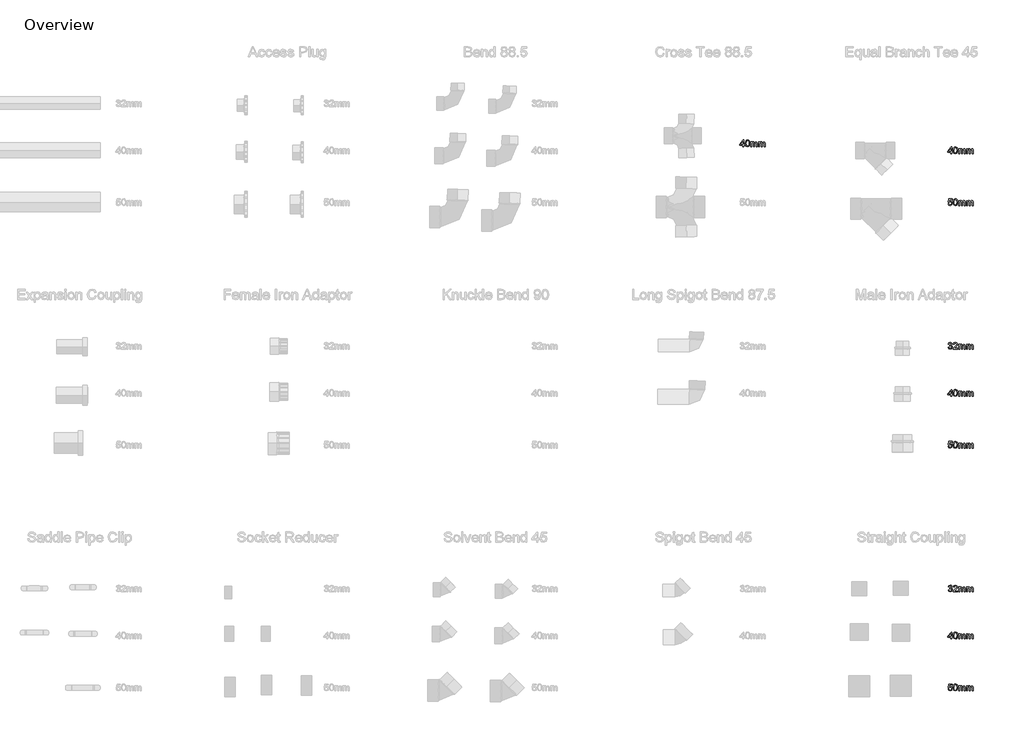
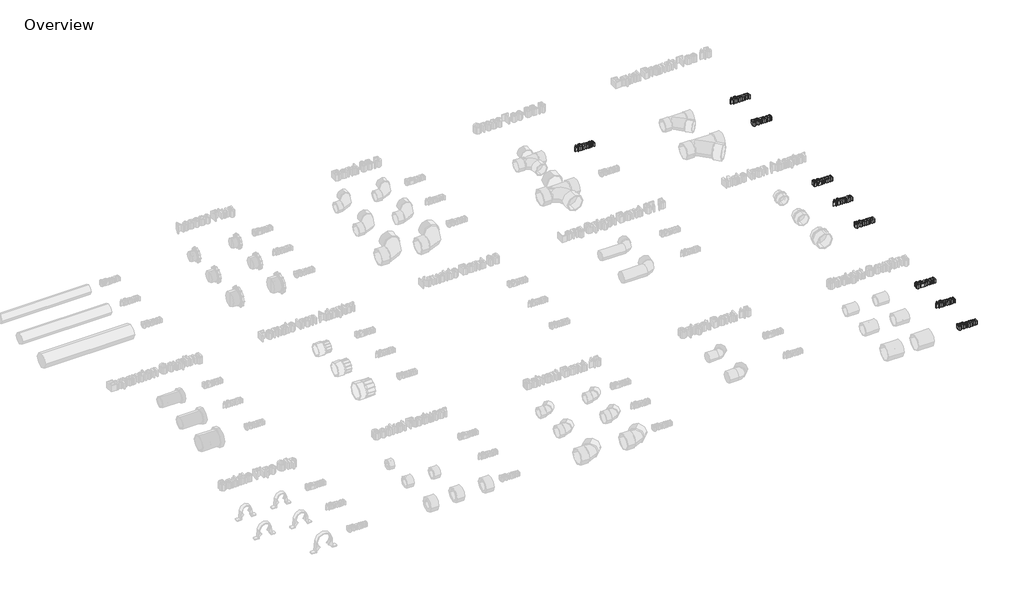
# One storey, part 10 of 10: 9 proxies.
"""IFC4 building model written with IfcOpenShell, lengths in millimetres."""

from ifc_helpers import new_model, si_unit, origin, origin_with_axes, place, context, project, spatial, polyline, outline, extrude, element, save

model = new_model("IFC4")

# Units and contexts
model_context = context("Model", 3, world=origin())
ifc_project = project(units=[si_unit("LENGTHUNIT", "METRE", prefix="MILLI")], contexts=[model_context])

# Site, building, storey
site = spatial("IfcSite", under=ifc_project)
building = spatial("IfcBuilding", under=site)
storey = spatial("IfcBuildingStorey", under=building, Name="Overview", Elevation=0.0)

# Proxies
placement = place(None, origin())
element("IfcBuildingElementProxy", 1, Name="20mm Arial", ObjectType="20mm Arial", at=placement, inside=storey, context=model_context, shape_type="SweptSolid", body=[
    extrude(outline(polyline([(101.7650883, 4421.4652453), (104.2266268, 4421.7729376), (105.5847999, 4419.1815914), (108.1256653, 4418.3883222), (111.1160499, 4419.4796684), (112.2266268, 4422.1815914), (111.1256653, 4424.7272645), (108.3275883, 4425.7344761), (106.6016268, 4425.4652453), (106.8756653, 4427.9267837), (110.0631653, 4428.6046684), (111.3035499, 4430.7777453), (110.4045114, 4432.7032261), (108.0872037, 4433.4652453), (105.7410499, 4432.6960145), (104.5343191, 4430.3883222), (102.0727806, 4430.6960145), (104.0872037, 4434.5565914), (108.0006653, 4435.9267837), (110.9694153, 4435.251303), (113.0463383, 4433.4051491), (113.7650883, 4430.9219761), (113.082396, 4428.6527453), (111.0631653, 4427.0229376), (113.7458576, 4425.3402453), (114.6881653, 4422.1383222), (112.8035499, 4417.7344761), (108.0391268, 4415.9267837), (103.7218191, 4417.470053), (101.7650883, 4421.4652453)])), origin_with_axes(), (0.0, 0.0, 1.0), 15.0),
    extrude(outline(polyline([(129.457396, 4418.6960145), (129.457396, 4416.2344761), (116.5343191, 4416.2344761), (116.7987422, 4417.9315914), (118.2939345, 4420.5445722), (121.3756653, 4423.3979376), (125.6256653, 4427.4988991), (126.6881653, 4430.2873607), (125.6857614, 4432.5445722), (123.0679729, 4433.4652453), (120.3396076, 4432.5662068), (119.3035499, 4430.0806299), (116.8420114, 4430.3883222), (118.7290306, 4434.5085145), (123.1208576, 4435.9267837), (127.5271076, 4434.3498607), (129.1497037, 4430.4363991), (128.7122037, 4428.1022645), (127.2578768, 4425.688803), (123.7314345, 4422.3162068), (120.8997037, 4419.9484184), (119.7891268, 4418.6960145), (129.457396, 4418.6960145)])), origin_with_axes(), (0.0, 0.0, 1.0), 15.0),
    extrude(outline(polyline([(132.5343191, 4416.2344761), (132.5343191, 4430.6960145), (134.9958576, 4430.6960145), (134.9958576, 4428.3162068), (136.6881653, 4430.2657261), (139.0968191, 4431.0037068), (141.5631653, 4430.251303), (142.9189345, 4428.1431299), (147.2650883, 4431.0037068), (150.4838383, 4429.813803), (151.6112422, 4426.1479376), (151.6112422, 4416.2344761), (149.1497037, 4416.2344761), (149.1497037, 4425.0902453), (148.9213383, 4427.1455337), (144.2674922, 4427.5565914), (143.3035499, 4424.3979376), (143.3035499, 4416.2344761), (140.8420114, 4416.2344761), (140.8420114, 4425.3642837), (140.2722999, 4427.7488991), (138.4045114, 4428.5421684), (136.582396, 4428.0133222), (135.3708576, 4426.4652453), (134.9958576, 4423.5277453), (134.9958576, 4416.2344761), (132.5343191, 4416.2344761)])), origin_with_axes(), (0.0, 0.0, 1.0), 15.0),
    extrude(outline(polyline([(155.3035499, 4416.2344761), (155.3035499, 4430.6960145), (157.7650883, 4430.6960145), (157.7650883, 4428.3162068), (159.457396, 4430.2657261), (161.8660499, 4431.0037068), (164.332396, 4430.251303), (165.6881653, 4428.1431299), (170.0343191, 4431.0037068), (173.2530691, 4429.813803), (174.3804729, 4426.1479376), (174.3804729, 4416.2344761), (171.9189345, 4416.2344761), (171.9189345, 4425.0902453), (171.6905691, 4427.1455337), (167.0367229, 4427.5565914), (166.0727806, 4424.3979376), (166.0727806, 4416.2344761), (163.6112422, 4416.2344761), (163.6112422, 4425.3642837), (163.0415306, 4427.7488991), (161.1737422, 4428.5421684), (159.3516268, 4428.0133222), (158.1400883, 4426.4652453), (157.7650883, 4423.5277453), (157.7650883, 4416.2344761), (155.3035499, 4416.2344761)])), origin_with_axes(), (0.0, 0.0, 1.0), 15.0),
])
element("IfcBuildingElementProxy", 2, Name="20mm Arial", ObjectType="20mm Arial", at=placement, inside=storey, context=model_context, shape_type="SweptSolid", body=[
    extrude(outline(polyline([(109.7650883, 4280.5685355), (109.7650883, 4285.1839201), (100.8420114, 4285.1839201), (100.8420114, 4287.6454586), (110.3804729, 4299.9531509), (112.2266268, 4299.9531509), (112.2266268, 4287.6454586), (114.6881653, 4287.6454586), (114.6881653, 4285.1839201), (112.2266268, 4285.1839201), (112.2266268, 4280.5685355), (109.7650883, 4280.5685355)]), holes=[polyline([(109.7650883, 4287.6454586), (109.7650883, 4295.2512278), (103.8708576, 4287.6454586), (109.7650883, 4287.6454586)])]), origin_with_axes(), (0.0, 0.0, 1.0), 15.0),
    extrude(outline(polyline([(116.8420114, 4290.2560355), (117.5655691, 4295.9219009), (119.7146076, 4299.1887278), (123.3035499, 4300.2608432), (126.1785499, 4299.6262278), (128.1641268, 4297.7969009), (129.3179729, 4294.8834393), (129.7650883, 4290.2560355), (129.0487422, 4284.6142086), (126.9069153, 4281.3401701), (123.3035499, 4280.2608432), (118.8035499, 4282.1358432), (116.8420114, 4290.2560355)]), holes=[polyline([(119.3035499, 4290.2608432), (120.457396, 4284.1478624), (123.3035499, 4282.7223816), (126.1497037, 4284.1526701), (127.3035499, 4290.2608432), (126.1881653, 4296.3041124), (123.2747037, 4297.7993047), (120.4958576, 4296.481997), (119.3035499, 4290.2608432)])]), origin_with_axes(), (0.0, 0.0, 1.0), 15.0),
    extrude(outline(polyline([(132.5343191, 4280.5685355), (132.5343191, 4295.030074), (134.9958576, 4295.030074), (134.9958576, 4292.6502663), (136.6881653, 4294.5997855), (139.0968191, 4295.3377663), (141.5631653, 4294.5853624), (142.9189345, 4292.4771893), (147.2650883, 4295.3377663), (150.4838383, 4294.1478624), (151.6112422, 4290.481997), (151.6112422, 4280.5685355), (149.1497037, 4280.5685355), (149.1497037, 4289.4243047), (148.9213383, 4291.4795932), (144.2674922, 4291.8906509), (143.3035499, 4288.731997), (143.3035499, 4280.5685355), (140.8420114, 4280.5685355), (140.8420114, 4289.6983432), (140.2722999, 4292.0829586), (138.4045114, 4292.8762278), (136.582396, 4292.3473816), (135.3708576, 4290.7993047), (134.9958576, 4287.8618047), (134.9958576, 4280.5685355), (132.5343191, 4280.5685355)])), origin_with_axes(), (0.0, 0.0, 1.0), 15.0),
    extrude(outline(polyline([(155.3035499, 4280.5685355), (155.3035499, 4295.030074), (157.7650883, 4295.030074), (157.7650883, 4292.6502663), (159.457396, 4294.5997855), (161.8660499, 4295.3377663), (164.332396, 4294.5853624), (165.6881653, 4292.4771893), (170.0343191, 4295.3377663), (173.2530691, 4294.1478624), (174.3804729, 4290.481997), (174.3804729, 4280.5685355), (171.9189345, 4280.5685355), (171.9189345, 4289.4243047), (171.6905691, 4291.4795932), (167.0367229, 4291.8906509), (166.0727806, 4288.731997), (166.0727806, 4280.5685355), (163.6112422, 4280.5685355), (163.6112422, 4289.6983432), (163.0415306, 4292.0829586), (161.1737422, 4292.8762278), (159.3516268, 4292.3473816), (158.1400883, 4290.7993047), (157.7650883, 4287.8618047), (157.7650883, 4280.5685355), (155.3035499, 4280.5685355)])), origin_with_axes(), (0.0, 0.0, 1.0), 15.0),
])
element("IfcBuildingElementProxy", 3, Name="20mm Arial", ObjectType="20mm Arial", at=placement, inside=storey, context=model_context, shape_type="SweptSolid", body=[
    extrude(outline(polyline([(101.7650883, 4136.1445961), (104.2266268, 4136.4522884), (105.4670114, 4133.9162307), (108.0391268, 4133.067673), (111.1256653, 4134.2479615), (112.2266268, 4137.380173), (111.1953768, 4140.3032499), (108.0775883, 4141.3753653), (105.9165306, 4140.9474807), (104.5343191, 4139.8369038), (102.0727806, 4140.1445961), (104.2266268, 4150.2984422), (113.7650883, 4150.2984422), (113.7650883, 4147.8369038), (106.2170114, 4147.8369038), (105.1641268, 4142.4138269), (108.7650883, 4143.8369038), (112.9742229, 4142.0724807), (114.6881653, 4137.5340192), (113.144896, 4132.9667115), (108.0295114, 4130.6061346), (103.6857614, 4132.1229615), (101.7650883, 4136.1445961)])), origin_with_axes(), (0.0, 0.0, 1.0), 15.0),
    extrude(outline(polyline([(116.8420114, 4140.6013269), (117.5655691, 4146.2671922), (119.7146076, 4149.5340192), (123.3035499, 4150.6061346), (126.1785499, 4149.9715192), (128.1641268, 4148.1421922), (129.3179729, 4145.2287307), (129.7650883, 4140.6013269), (129.0487422, 4134.9594999), (126.9069153, 4131.6854615), (123.3035499, 4130.6061346), (118.8035499, 4132.4811346), (116.8420114, 4140.6013269)]), holes=[polyline([(119.3035499, 4140.6061346), (120.457396, 4134.4931538), (123.3035499, 4133.067673), (126.1497037, 4134.4979615), (127.3035499, 4140.6061346), (126.1881653, 4146.6494038), (123.2747037, 4148.1445961), (120.4958576, 4146.8272884), (119.3035499, 4140.6061346)])]), origin_with_axes(), (0.0, 0.0, 1.0), 15.0),
    extrude(outline(polyline([(132.5343191, 4130.9138269), (132.5343191, 4145.3753653), (134.9958576, 4145.3753653), (134.9958576, 4142.9955576), (136.6881653, 4144.9450769), (139.0968191, 4145.6830576), (141.5631653, 4144.9306538), (142.9189345, 4142.8224807), (147.2650883, 4145.6830576), (150.4838383, 4144.4931538), (151.6112422, 4140.8272884), (151.6112422, 4130.9138269), (149.1497037, 4130.9138269), (149.1497037, 4139.7695961), (148.9213383, 4141.8248846), (144.2674922, 4142.2359422), (143.3035499, 4139.0772884), (143.3035499, 4130.9138269), (140.8420114, 4130.9138269), (140.8420114, 4140.0436346), (140.2722999, 4142.4282499), (138.4045114, 4143.2215192), (136.582396, 4142.692673), (135.3708576, 4141.1445961), (134.9958576, 4138.2070961), (134.9958576, 4130.9138269), (132.5343191, 4130.9138269)])), origin_with_axes(), (0.0, 0.0, 1.0), 15.0),
    extrude(outline(polyline([(155.3035499, 4130.9138269), (155.3035499, 4145.3753653), (157.7650883, 4145.3753653), (157.7650883, 4142.9955576), (159.457396, 4144.9450769), (161.8660499, 4145.6830576), (164.332396, 4144.9306538), (165.6881653, 4142.8224807), (170.0343191, 4145.6830576), (173.2530691, 4144.4931538), (174.3804729, 4140.8272884), (174.3804729, 4130.9138269), (171.9189345, 4130.9138269), (171.9189345, 4139.7695961), (171.6905691, 4141.8248846), (167.0367229, 4142.2359422), (166.0727806, 4139.0772884), (166.0727806, 4130.9138269), (163.6112422, 4130.9138269), (163.6112422, 4140.0436346), (163.0415306, 4142.4282499), (161.1737422, 4143.2215192), (159.3516268, 4142.692673), (158.1400883, 4141.1445961), (157.7650883, 4138.2070961), (157.7650883, 4130.9138269), (155.3035499, 4130.9138269)])), origin_with_axes(), (0.0, 0.0, 1.0), 15.0),
])
element("IfcBuildingElementProxy", 4, Name="20mm Arial", ObjectType="20mm Arial", at=placement, inside=storey, context=model_context, shape_type="SweptSolid", body=[
    extrude(outline(polyline([(-490.2349117, 5000.5685355), (-490.2349117, 5005.1839201), (-499.1579886, 5005.1839201), (-499.1579886, 5007.6454586), (-489.6195271, 5019.9531509), (-487.7733732, 5019.9531509), (-487.7733732, 5007.6454586), (-485.3118347, 5007.6454586), (-485.3118347, 5005.1839201), (-487.7733732, 5005.1839201), (-487.7733732, 5000.5685355), (-490.2349117, 5000.5685355)]), holes=[polyline([(-490.2349117, 5007.6454586), (-490.2349117, 5015.2512278), (-496.1291424, 5007.6454586), (-490.2349117, 5007.6454586)])]), origin_with_axes(), (0.0, 0.0, 1.0), 15.0),
    extrude(outline(polyline([(-483.1579886, 5010.2560355), (-482.4344309, 5015.9219009), (-480.2853924, 5019.1887278), (-476.6964501, 5020.2608432), (-473.8214501, 5019.6262278), (-471.8358732, 5017.7969009), (-470.6820271, 5014.8834393), (-470.2349117, 5010.2560355), (-470.9512578, 5004.6142086), (-473.0930847, 5001.3401701), (-476.6964501, 5000.2608432), (-481.1964501, 5002.1358432), (-483.1579886, 5010.2560355)]), holes=[polyline([(-480.6964501, 5010.2608432), (-479.542604, 5004.1478624), (-476.6964501, 5002.7223816), (-473.8502963, 5004.1526701), (-472.6964501, 5010.2608432), (-473.8118347, 5016.3041124), (-476.7252963, 5017.7993047), (-479.5041424, 5016.481997), (-480.6964501, 5010.2608432)])]), origin_with_axes(), (0.0, 0.0, 1.0), 15.0),
    extrude(outline(polyline([(-467.4656809, 5000.5685355), (-467.4656809, 5015.030074), (-465.0041424, 5015.030074), (-465.0041424, 5012.6502663), (-463.3118347, 5014.5997855), (-460.9031809, 5015.3377663), (-458.4368347, 5014.5853624), (-457.0810655, 5012.4771893), (-452.7349117, 5015.3377663), (-449.5161617, 5014.1478624), (-448.3887578, 5010.481997), (-448.3887578, 5000.5685355), (-450.8502963, 5000.5685355), (-450.8502963, 5009.4243047), (-451.0786617, 5011.4795932), (-455.7325078, 5011.8906509), (-456.6964501, 5008.731997), (-456.6964501, 5000.5685355), (-459.1579886, 5000.5685355), (-459.1579886, 5009.6983432), (-459.7277001, 5012.0829586), (-461.5954886, 5012.8762278), (-463.417604, 5012.3473816), (-464.6291424, 5010.7993047), (-465.0041424, 5007.8618047), (-465.0041424, 5000.5685355), (-467.4656809, 5000.5685355)])), origin_with_axes(), (0.0, 0.0, 1.0), 15.0),
    extrude(outline(polyline([(-444.6964501, 5000.5685355), (-444.6964501, 5015.030074), (-442.2349117, 5015.030074), (-442.2349117, 5012.6502663), (-440.542604, 5014.5997855), (-438.1339501, 5015.3377663), (-435.667604, 5014.5853624), (-434.3118347, 5012.4771893), (-429.9656809, 5015.3377663), (-426.7469309, 5014.1478624), (-425.6195271, 5010.481997), (-425.6195271, 5000.5685355), (-428.0810655, 5000.5685355), (-428.0810655, 5009.4243047), (-428.3094309, 5011.4795932), (-432.9632771, 5011.8906509), (-433.9272194, 5008.731997), (-433.9272194, 5000.5685355), (-436.3887578, 5000.5685355), (-436.3887578, 5009.6983432), (-436.9584694, 5012.0829586), (-438.8262578, 5012.8762278), (-440.6483732, 5012.3473816), (-441.8599117, 5010.7993047), (-442.2349117, 5007.8618047), (-442.2349117, 5000.5685355), (-444.6964501, 5000.5685355)])), origin_with_axes(), (0.0, 0.0, 1.0), 15.0),
])
element("IfcBuildingElementProxy", 5, Name="20mm Arial", ObjectType="20mm Arial", at=placement, inside=storey, context=model_context, shape_type="SweptSolid", body=[
    extrude(outline(polyline([(109.7650883, 4980.5685355), (109.7650883, 4985.1839201), (100.8420114, 4985.1839201), (100.8420114, 4987.6454586), (110.3804729, 4999.9531509), (112.2266268, 4999.9531509), (112.2266268, 4987.6454586), (114.6881653, 4987.6454586), (114.6881653, 4985.1839201), (112.2266268, 4985.1839201), (112.2266268, 4980.5685355), (109.7650883, 4980.5685355)]), holes=[polyline([(109.7650883, 4987.6454586), (109.7650883, 4995.2512278), (103.8708576, 4987.6454586), (109.7650883, 4987.6454586)])]), origin_with_axes(), (0.0, 0.0, 1.0), 15.0),
    extrude(outline(polyline([(116.8420114, 4990.2560355), (117.5655691, 4995.9219009), (119.7146076, 4999.1887278), (123.3035499, 5000.2608432), (126.1785499, 4999.6262278), (128.1641268, 4997.7969009), (129.3179729, 4994.8834393), (129.7650883, 4990.2560355), (129.0487422, 4984.6142086), (126.9069153, 4981.3401701), (123.3035499, 4980.2608432), (118.8035499, 4982.1358432), (116.8420114, 4990.2560355)]), holes=[polyline([(119.3035499, 4990.2608432), (120.457396, 4984.1478624), (123.3035499, 4982.7223816), (126.1497037, 4984.1526701), (127.3035499, 4990.2608432), (126.1881653, 4996.3041124), (123.2747037, 4997.7993047), (120.4958576, 4996.481997), (119.3035499, 4990.2608432)])]), origin_with_axes(), (0.0, 0.0, 1.0), 15.0),
    extrude(outline(polyline([(132.5343191, 4980.5685355), (132.5343191, 4995.030074), (134.9958576, 4995.030074), (134.9958576, 4992.6502663), (136.6881653, 4994.5997855), (139.0968191, 4995.3377663), (141.5631653, 4994.5853624), (142.9189345, 4992.4771893), (147.2650883, 4995.3377663), (150.4838383, 4994.1478624), (151.6112422, 4990.481997), (151.6112422, 4980.5685355), (149.1497037, 4980.5685355), (149.1497037, 4989.4243047), (148.9213383, 4991.4795932), (144.2674922, 4991.8906509), (143.3035499, 4988.731997), (143.3035499, 4980.5685355), (140.8420114, 4980.5685355), (140.8420114, 4989.6983432), (140.2722999, 4992.0829586), (138.4045114, 4992.8762278), (136.582396, 4992.3473816), (135.3708576, 4990.7993047), (134.9958576, 4987.8618047), (134.9958576, 4980.5685355), (132.5343191, 4980.5685355)])), origin_with_axes(), (0.0, 0.0, 1.0), 15.0),
    extrude(outline(polyline([(155.3035499, 4980.5685355), (155.3035499, 4995.030074), (157.7650883, 4995.030074), (157.7650883, 4992.6502663), (159.457396, 4994.5997855), (161.8660499, 4995.3377663), (164.332396, 4994.5853624), (165.6881653, 4992.4771893), (170.0343191, 4995.3377663), (173.2530691, 4994.1478624), (174.3804729, 4990.481997), (174.3804729, 4980.5685355), (171.9189345, 4980.5685355), (171.9189345, 4989.4243047), (171.6905691, 4991.4795932), (167.0367229, 4991.8906509), (166.0727806, 4988.731997), (166.0727806, 4980.5685355), (163.6112422, 4980.5685355), (163.6112422, 4989.6983432), (163.0415306, 4992.0829586), (161.1737422, 4992.8762278), (159.3516268, 4992.3473816), (158.1400883, 4990.7993047), (157.7650883, 4987.8618047), (157.7650883, 4980.5685355), (155.3035499, 4980.5685355)])), origin_with_axes(), (0.0, 0.0, 1.0), 15.0),
])
element("IfcBuildingElementProxy", 6, Name="20mm Arial", ObjectType="20mm Arial", at=placement, inside=storey, context=model_context, shape_type="SweptSolid", body=[
    extrude(outline(polyline([(101.7650883, 4836.1445961), (104.2266268, 4836.4522884), (105.4670114, 4833.9162307), (108.0391268, 4833.067673), (111.1256653, 4834.2479615), (112.2266268, 4837.380173), (111.1953768, 4840.3032499), (108.0775883, 4841.3753653), (105.9165306, 4840.9474807), (104.5343191, 4839.8369038), (102.0727806, 4840.1445961), (104.2266268, 4850.2984422), (113.7650883, 4850.2984422), (113.7650883, 4847.8369038), (106.2170114, 4847.8369038), (105.1641268, 4842.4138269), (108.7650883, 4843.8369038), (112.9742229, 4842.0724807), (114.6881653, 4837.5340192), (113.144896, 4832.9667115), (108.0295114, 4830.6061346), (103.6857614, 4832.1229615), (101.7650883, 4836.1445961)])), origin_with_axes(), (0.0, 0.0, 1.0), 15.0),
    extrude(outline(polyline([(116.8420114, 4840.6013269), (117.5655691, 4846.2671922), (119.7146076, 4849.5340192), (123.3035499, 4850.6061346), (126.1785499, 4849.9715192), (128.1641268, 4848.1421922), (129.3179729, 4845.2287307), (129.7650883, 4840.6013269), (129.0487422, 4834.9594999), (126.9069153, 4831.6854615), (123.3035499, 4830.6061346), (118.8035499, 4832.4811346), (116.8420114, 4840.6013269)]), holes=[polyline([(119.3035499, 4840.6061346), (120.457396, 4834.4931538), (123.3035499, 4833.067673), (126.1497037, 4834.4979615), (127.3035499, 4840.6061346), (126.1881653, 4846.6494038), (123.2747037, 4848.1445961), (120.4958576, 4846.8272884), (119.3035499, 4840.6061346)])]), origin_with_axes(), (0.0, 0.0, 1.0), 15.0),
    extrude(outline(polyline([(132.5343191, 4830.9138269), (132.5343191, 4845.3753653), (134.9958576, 4845.3753653), (134.9958576, 4842.9955576), (136.6881653, 4844.9450769), (139.0968191, 4845.6830576), (141.5631653, 4844.9306538), (142.9189345, 4842.8224807), (147.2650883, 4845.6830576), (150.4838383, 4844.4931538), (151.6112422, 4840.8272884), (151.6112422, 4830.9138269), (149.1497037, 4830.9138269), (149.1497037, 4839.7695961), (148.9213383, 4841.8248846), (144.2674922, 4842.2359422), (143.3035499, 4839.0772884), (143.3035499, 4830.9138269), (140.8420114, 4830.9138269), (140.8420114, 4840.0436346), (140.2722999, 4842.4282499), (138.4045114, 4843.2215192), (136.582396, 4842.692673), (135.3708576, 4841.1445961), (134.9958576, 4838.2070961), (134.9958576, 4830.9138269), (132.5343191, 4830.9138269)])), origin_with_axes(), (0.0, 0.0, 1.0), 15.0),
    extrude(outline(polyline([(155.3035499, 4830.9138269), (155.3035499, 4845.3753653), (157.7650883, 4845.3753653), (157.7650883, 4842.9955576), (159.457396, 4844.9450769), (161.8660499, 4845.6830576), (164.332396, 4844.9306538), (165.6881653, 4842.8224807), (170.0343191, 4845.6830576), (173.2530691, 4844.4931538), (174.3804729, 4840.8272884), (174.3804729, 4830.9138269), (171.9189345, 4830.9138269), (171.9189345, 4839.7695961), (171.6905691, 4841.8248846), (167.0367229, 4842.2359422), (166.0727806, 4839.0772884), (166.0727806, 4830.9138269), (163.6112422, 4830.9138269), (163.6112422, 4840.0436346), (163.0415306, 4842.4282499), (161.1737422, 4843.2215192), (159.3516268, 4842.692673), (158.1400883, 4841.1445961), (157.7650883, 4838.2070961), (157.7650883, 4830.9138269), (155.3035499, 4830.9138269)])), origin_with_axes(), (0.0, 0.0, 1.0), 15.0),
])
element("IfcBuildingElementProxy", 7, Name="20mm Arial", ObjectType="20mm Arial", at=placement, inside=storey, context=model_context, shape_type="SweptSolid", body=[
    extrude(outline(polyline([(101.7650883, 3721.4652453), (104.2266268, 3721.7729376), (105.5847999, 3719.1815914), (108.1256653, 3718.3883222), (111.1160499, 3719.4796684), (112.2266268, 3722.1815914), (111.1256653, 3724.7272645), (108.3275883, 3725.7344761), (106.6016268, 3725.4652453), (106.8756653, 3727.9267837), (110.0631653, 3728.6046684), (111.3035499, 3730.7777453), (110.4045114, 3732.7032261), (108.0872037, 3733.4652453), (105.7410499, 3732.6960145), (104.5343191, 3730.3883222), (102.0727806, 3730.6960145), (104.0872037, 3734.5565914), (108.0006653, 3735.9267837), (110.9694153, 3735.251303), (113.0463383, 3733.4051491), (113.7650883, 3730.9219761), (113.082396, 3728.6527453), (111.0631653, 3727.0229376), (113.7458576, 3725.3402453), (114.6881653, 3722.1383222), (112.8035499, 3717.7344761), (108.0391268, 3715.9267837), (103.7218191, 3717.470053), (101.7650883, 3721.4652453)])), origin_with_axes(), (0.0, 0.0, 1.0), 15.0),
    extrude(outline(polyline([(129.457396, 3718.6960145), (129.457396, 3716.2344761), (116.5343191, 3716.2344761), (116.7987422, 3717.9315914), (118.2939345, 3720.5445722), (121.3756653, 3723.3979376), (125.6256653, 3727.4988991), (126.6881653, 3730.2873607), (125.6857614, 3732.5445722), (123.0679729, 3733.4652453), (120.3396076, 3732.5662068), (119.3035499, 3730.0806299), (116.8420114, 3730.3883222), (118.7290306, 3734.5085145), (123.1208576, 3735.9267837), (127.5271076, 3734.3498607), (129.1497037, 3730.4363991), (128.7122037, 3728.1022645), (127.2578768, 3725.688803), (123.7314345, 3722.3162068), (120.8997037, 3719.9484184), (119.7891268, 3718.6960145), (129.457396, 3718.6960145)])), origin_with_axes(), (0.0, 0.0, 1.0), 15.0),
    extrude(outline(polyline([(132.5343191, 3716.2344761), (132.5343191, 3730.6960145), (134.9958576, 3730.6960145), (134.9958576, 3728.3162068), (136.6881653, 3730.2657261), (139.0968191, 3731.0037068), (141.5631653, 3730.251303), (142.9189345, 3728.1431299), (147.2650883, 3731.0037068), (150.4838383, 3729.813803), (151.6112422, 3726.1479376), (151.6112422, 3716.2344761), (149.1497037, 3716.2344761), (149.1497037, 3725.0902453), (148.9213383, 3727.1455337), (144.2674922, 3727.5565914), (143.3035499, 3724.3979376), (143.3035499, 3716.2344761), (140.8420114, 3716.2344761), (140.8420114, 3725.3642837), (140.2722999, 3727.7488991), (138.4045114, 3728.5421684), (136.582396, 3728.0133222), (135.3708576, 3726.4652453), (134.9958576, 3723.5277453), (134.9958576, 3716.2344761), (132.5343191, 3716.2344761)])), origin_with_axes(), (0.0, 0.0, 1.0), 15.0),
    extrude(outline(polyline([(155.3035499, 3716.2344761), (155.3035499, 3730.6960145), (157.7650883, 3730.6960145), (157.7650883, 3728.3162068), (159.457396, 3730.2657261), (161.8660499, 3731.0037068), (164.332396, 3730.251303), (165.6881653, 3728.1431299), (170.0343191, 3731.0037068), (173.2530691, 3729.813803), (174.3804729, 3726.1479376), (174.3804729, 3716.2344761), (171.9189345, 3716.2344761), (171.9189345, 3725.0902453), (171.6905691, 3727.1455337), (167.0367229, 3727.5565914), (166.0727806, 3724.3979376), (166.0727806, 3716.2344761), (163.6112422, 3716.2344761), (163.6112422, 3725.3642837), (163.0415306, 3727.7488991), (161.1737422, 3728.5421684), (159.3516268, 3728.0133222), (158.1400883, 3726.4652453), (157.7650883, 3723.5277453), (157.7650883, 3716.2344761), (155.3035499, 3716.2344761)])), origin_with_axes(), (0.0, 0.0, 1.0), 15.0),
])
element("IfcBuildingElementProxy", 8, Name="20mm Arial", ObjectType="20mm Arial", at=placement, inside=storey, context=model_context, shape_type="SweptSolid", body=[
    extrude(outline(polyline([(109.7650883, 3580.5685355), (109.7650883, 3585.1839201), (100.8420114, 3585.1839201), (100.8420114, 3587.6454586), (110.3804729, 3599.9531509), (112.2266268, 3599.9531509), (112.2266268, 3587.6454586), (114.6881653, 3587.6454586), (114.6881653, 3585.1839201), (112.2266268, 3585.1839201), (112.2266268, 3580.5685355), (109.7650883, 3580.5685355)]), holes=[polyline([(109.7650883, 3587.6454586), (109.7650883, 3595.2512278), (103.8708576, 3587.6454586), (109.7650883, 3587.6454586)])]), origin_with_axes(), (0.0, 0.0, 1.0), 15.0),
    extrude(outline(polyline([(116.8420114, 3590.2560355), (117.5655691, 3595.9219009), (119.7146076, 3599.1887278), (123.3035499, 3600.2608432), (126.1785499, 3599.6262278), (128.1641268, 3597.7969009), (129.3179729, 3594.8834393), (129.7650883, 3590.2560355), (129.0487422, 3584.6142086), (126.9069153, 3581.3401701), (123.3035499, 3580.2608432), (118.8035499, 3582.1358432), (116.8420114, 3590.2560355)]), holes=[polyline([(119.3035499, 3590.2608432), (120.457396, 3584.1478624), (123.3035499, 3582.7223816), (126.1497037, 3584.1526701), (127.3035499, 3590.2608432), (126.1881653, 3596.3041124), (123.2747037, 3597.7993047), (120.4958576, 3596.481997), (119.3035499, 3590.2608432)])]), origin_with_axes(), (0.0, 0.0, 1.0), 15.0),
    extrude(outline(polyline([(132.5343191, 3580.5685355), (132.5343191, 3595.030074), (134.9958576, 3595.030074), (134.9958576, 3592.6502663), (136.6881653, 3594.5997855), (139.0968191, 3595.3377663), (141.5631653, 3594.5853624), (142.9189345, 3592.4771893), (147.2650883, 3595.3377663), (150.4838383, 3594.1478624), (151.6112422, 3590.481997), (151.6112422, 3580.5685355), (149.1497037, 3580.5685355), (149.1497037, 3589.4243047), (148.9213383, 3591.4795932), (144.2674922, 3591.8906509), (143.3035499, 3588.731997), (143.3035499, 3580.5685355), (140.8420114, 3580.5685355), (140.8420114, 3589.6983432), (140.2722999, 3592.0829586), (138.4045114, 3592.8762278), (136.582396, 3592.3473816), (135.3708576, 3590.7993047), (134.9958576, 3587.8618047), (134.9958576, 3580.5685355), (132.5343191, 3580.5685355)])), origin_with_axes(), (0.0, 0.0, 1.0), 15.0),
    extrude(outline(polyline([(155.3035499, 3580.5685355), (155.3035499, 3595.030074), (157.7650883, 3595.030074), (157.7650883, 3592.6502663), (159.457396, 3594.5997855), (161.8660499, 3595.3377663), (164.332396, 3594.5853624), (165.6881653, 3592.4771893), (170.0343191, 3595.3377663), (173.2530691, 3594.1478624), (174.3804729, 3590.481997), (174.3804729, 3580.5685355), (171.9189345, 3580.5685355), (171.9189345, 3589.4243047), (171.6905691, 3591.4795932), (167.0367229, 3591.8906509), (166.0727806, 3588.731997), (166.0727806, 3580.5685355), (163.6112422, 3580.5685355), (163.6112422, 3589.6983432), (163.0415306, 3592.0829586), (161.1737422, 3592.8762278), (159.3516268, 3592.3473816), (158.1400883, 3590.7993047), (157.7650883, 3587.8618047), (157.7650883, 3580.5685355), (155.3035499, 3580.5685355)])), origin_with_axes(), (0.0, 0.0, 1.0), 15.0),
])
element("IfcBuildingElementProxy", 9, Name="20mm Arial", ObjectType="20mm Arial", at=placement, inside=storey, context=model_context, shape_type="SweptSolid", body=[
    extrude(outline(polyline([(101.7650883, 3436.1445961), (104.2266268, 3436.4522884), (105.4670114, 3433.9162307), (108.0391268, 3433.067673), (111.1256653, 3434.2479615), (112.2266268, 3437.380173), (111.1953768, 3440.3032499), (108.0775883, 3441.3753653), (105.9165306, 3440.9474807), (104.5343191, 3439.8369038), (102.0727806, 3440.1445961), (104.2266268, 3450.2984422), (113.7650883, 3450.2984422), (113.7650883, 3447.8369038), (106.2170114, 3447.8369038), (105.1641268, 3442.4138269), (108.7650883, 3443.8369038), (112.9742229, 3442.0724807), (114.6881653, 3437.5340192), (113.144896, 3432.9667115), (108.0295114, 3430.6061346), (103.6857614, 3432.1229615), (101.7650883, 3436.1445961)])), origin_with_axes(), (0.0, 0.0, 1.0), 15.0),
    extrude(outline(polyline([(116.8420114, 3440.6013269), (117.5655691, 3446.2671922), (119.7146076, 3449.5340192), (123.3035499, 3450.6061346), (126.1785499, 3449.9715192), (128.1641268, 3448.1421922), (129.3179729, 3445.2287307), (129.7650883, 3440.6013269), (129.0487422, 3434.9594999), (126.9069153, 3431.6854615), (123.3035499, 3430.6061346), (118.8035499, 3432.4811346), (116.8420114, 3440.6013269)]), holes=[polyline([(119.3035499, 3440.6061346), (120.457396, 3434.4931538), (123.3035499, 3433.067673), (126.1497037, 3434.4979615), (127.3035499, 3440.6061346), (126.1881653, 3446.6494038), (123.2747037, 3448.1445961), (120.4958576, 3446.8272884), (119.3035499, 3440.6061346)])]), origin_with_axes(), (0.0, 0.0, 1.0), 15.0),
    extrude(outline(polyline([(132.5343191, 3430.9138269), (132.5343191, 3445.3753653), (134.9958576, 3445.3753653), (134.9958576, 3442.9955576), (136.6881653, 3444.9450769), (139.0968191, 3445.6830576), (141.5631653, 3444.9306538), (142.9189345, 3442.8224807), (147.2650883, 3445.6830576), (150.4838383, 3444.4931538), (151.6112422, 3440.8272884), (151.6112422, 3430.9138269), (149.1497037, 3430.9138269), (149.1497037, 3439.7695961), (148.9213383, 3441.8248846), (144.2674922, 3442.2359422), (143.3035499, 3439.0772884), (143.3035499, 3430.9138269), (140.8420114, 3430.9138269), (140.8420114, 3440.0436346), (140.2722999, 3442.4282499), (138.4045114, 3443.2215192), (136.582396, 3442.692673), (135.3708576, 3441.1445961), (134.9958576, 3438.2070961), (134.9958576, 3430.9138269), (132.5343191, 3430.9138269)])), origin_with_axes(), (0.0, 0.0, 1.0), 15.0),
    extrude(outline(polyline([(155.3035499, 3430.9138269), (155.3035499, 3445.3753653), (157.7650883, 3445.3753653), (157.7650883, 3442.9955576), (159.457396, 3444.9450769), (161.8660499, 3445.6830576), (164.332396, 3444.9306538), (165.6881653, 3442.8224807), (170.0343191, 3445.6830576), (173.2530691, 3444.4931538), (174.3804729, 3440.8272884), (174.3804729, 3430.9138269), (171.9189345, 3430.9138269), (171.9189345, 3439.7695961), (171.6905691, 3441.8248846), (167.0367229, 3442.2359422), (166.0727806, 3439.0772884), (166.0727806, 3430.9138269), (163.6112422, 3430.9138269), (163.6112422, 3440.0436346), (163.0415306, 3442.4282499), (161.1737422, 3443.2215192), (159.3516268, 3442.692673), (158.1400883, 3441.1445961), (157.7650883, 3438.2070961), (157.7650883, 3430.9138269), (155.3035499, 3430.9138269)])), origin_with_axes(), (0.0, 0.0, 1.0), 15.0),
])

save(model, "model.ifc")
